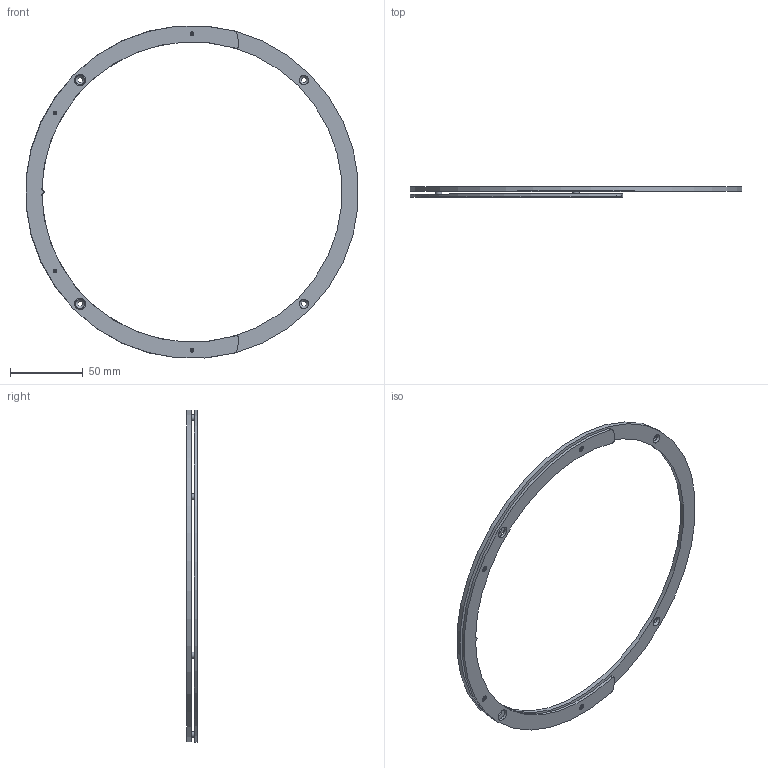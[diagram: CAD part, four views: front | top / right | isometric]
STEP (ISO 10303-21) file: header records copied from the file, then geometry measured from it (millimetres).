
FILE_DESCRIPTION(/* description */ ('Unknown'),/* implementation_level */ '2;1');
FILE_NAME(/* name */ 'Optical Demo Set -M',/* time_stamp */ '2022-08-22T10:33:49+02:00',/* author */ ('Unknown'),/* organization */ ('Unknown'),/* preprocessor_version */ 'ST-DEVELOPER v18.102',/* originating_system */ 'Solid Edge',/* authorisation */ 'Unknown');
FILE_SCHEMA (('AUTOMOTIVE_DESIGN {1 0 10303 214 3 1 1}'));
Length unit declared in the file: millimetre
Products named in the file (1): 99017609 Optical Demo Set -M
Bounding box: 227.73 x 7 x 227.75 mm (x, y, z)
Volume: 31872.4 mm3; surface area: 30832.4 mm2
Topology: 1 solids, 1 shells, 146 faces, 361 edges, 243 vertices
Faces by surface type: plane 78, cylinder 44, cone 20, torus 4
Full cylindrical faces by diameter (mm): 2.459 x4, 3 x4, 3.135 x4, 3.6 x8, 4.2 x4, 4.22 x4, 5.5 x4, 8 x2, 206 x1, 228.6 x1
Entity records: 4822 total; most frequent: DIRECTION 668, CARTESIAN_POINT 621, ORIENTED_EDGE 532, EDGE_CURVE 266, AXIS2_PLACEMENT_3D 255, EDGE_LOOP 252, FACE_BOUND 252, VERTEX_POINT 208
